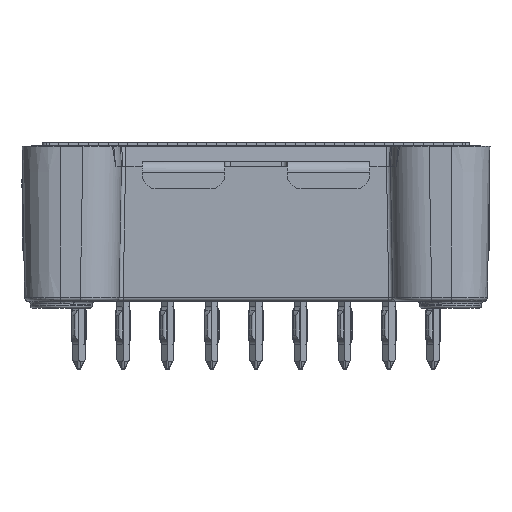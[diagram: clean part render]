
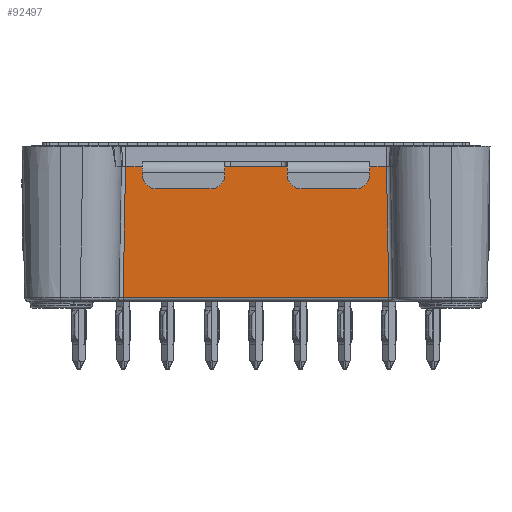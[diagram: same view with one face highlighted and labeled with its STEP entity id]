
A CAD part, left-side view. The second image highlights one B-rep face of the part: STEP entity #92497.
In plain terms, the highlighted planar face has unit normal (-1, 0, -0.018) as drawn and (0, 0.017, -1) by its records, which use the part's own axes.
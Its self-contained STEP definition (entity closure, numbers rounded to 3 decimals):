
#1170 = VECTOR ( 'NONE', #96610, 1000. ) ;
#6034 = CARTESIAN_POINT ( 'NONE',  ( 12.269, 20.602, 6.038 ) ) ;
#6550 = LINE ( 'NONE', #117843, #32901 ) ;
#10322 = VECTOR ( 'NONE', #28267, 1000. ) ;
#14903 = DIRECTION ( 'NONE',  ( -1., 0., 0. ) ) ;
#16298 = VERTEX_POINT ( 'NONE', #76093 ) ;
#19536 = VERTEX_POINT ( 'NONE', #52197 ) ;
#20407 = LINE ( 'NONE', #111037, #68376 ) ;
#25195 = DIRECTION ( 'NONE',  ( 0., 0.017, -1. ) ) ;
#25995 = DIRECTION ( 'NONE',  ( -0.017, -1., -0.017 ) ) ;
#26356 = VERTEX_POINT ( 'NONE', #105209 ) ;
#28267 = DIRECTION ( 'NONE',  ( 0., 1., 0.017 ) ) ;
#28622 = ORIENTED_EDGE ( 'NONE', *, *, #90047, .T. ) ;
#28893 = DIRECTION ( 'NONE',  ( -1., 0., 0. ) ) ;
#29606 = VECTOR ( 'NONE', #118853, 1000. ) ;
#31381 = VECTOR ( 'NONE', #25995, 1000. ) ;
#31553 = VERTEX_POINT ( 'NONE', #55242 ) ;
#32901 = VECTOR ( 'NONE', #34578, 1000. ) ;
#34578 = DIRECTION ( 'NONE',  ( -1., 0., 0. ) ) ;
#38624 = ORIENTED_EDGE ( 'NONE', *, *, #46875, .T. ) ;
#41908 = DIRECTION ( 'NONE',  ( -0.017, 1., 0.017 ) ) ;
#42035 = DIRECTION ( 'NONE',  ( 0., -1., -0.017 ) ) ;
#43796 = CARTESIAN_POINT ( 'NONE',  ( 12.269, 22.072, 6.063 ) ) ;
#45746 = EDGE_CURVE ( 'NONE', #57873, #19536, #20407, .T. ) ;
#46875 = EDGE_CURVE ( 'NONE', #59455, #57873, #80357, .T. ) ;
#47929 = EDGE_CURVE ( 'NONE', #19536, #93644, #86933, .T. ) ;
#50928 = EDGE_CURVE ( 'NONE', #26356, #71558, #74617, .T. ) ;
#52197 = CARTESIAN_POINT ( 'NONE',  ( 11.044, 22.072, 6.063 ) ) ;
#54637 = EDGE_LOOP ( 'NONE', ( #91057, #69706, #113820, #77518, #38624, #93713, #75351, #28622 ) ) ;
#55242 = CARTESIAN_POINT ( 'NONE',  ( 30.06, 31.507, 6.228 ) ) ;
#56198 = VECTOR ( 'NONE', #42035, 1000. ) ;
#57873 = VERTEX_POINT ( 'NONE', #93771 ) ;
#58375 = LINE ( 'NONE', #105704, #1170 ) ;
#58930 = CARTESIAN_POINT ( 'NONE',  ( 28.669, 22.072, 6.063 ) ) ;
#59455 = VERTEX_POINT ( 'NONE', #43796 ) ;
#62067 = EDGE_CURVE ( 'NONE', #31553, #16298, #83252, .T. ) ;
#68152 = CARTESIAN_POINT ( 'NONE',  ( 10.874, 31.807, 6.233 ) ) ;
#68376 = VECTOR ( 'NONE', #28893, 1000. ) ;
#69706 = ORIENTED_EDGE ( 'NONE', *, *, #112130, .T. ) ;
#71558 = VERTEX_POINT ( 'NONE', #58930 ) ;
#72394 = CARTESIAN_POINT ( 'NONE',  ( 29.87, 20.607, 6.038 ) ) ;
#74617 = LINE ( 'NONE', #111591, #10322 ) ;
#74847 = AXIS2_PLACEMENT_3D ( 'NONE', #98262, #25195, #14903 ) ;
#75351 = ORIENTED_EDGE ( 'NONE', *, *, #47929, .T. ) ;
#76093 = CARTESIAN_POINT ( 'NONE',  ( 29.895, 22.072, 6.063 ) ) ;
#77518 = ORIENTED_EDGE ( 'NONE', *, *, #110271, .F. ) ;
#80357 = LINE ( 'NONE', #6034, #56198 ) ;
#83252 = LINE ( 'NONE', #72394, #31381 ) ;
#86933 = LINE ( 'NONE', #68152, #104952 ) ;
#89213 = PLANE ( 'NONE',  #74847 ) ;
#90047 = EDGE_CURVE ( 'NONE', #93644, #31553, #100064, .T. ) ;
#91057 = ORIENTED_EDGE ( 'NONE', *, *, #62067, .T. ) ;
#92497 = ADVANCED_FACE ( 'NONE', ( #109697 ), #89213, .T. ) ;
#93644 = VERTEX_POINT ( 'NONE', #98722 ) ;
#93713 = ORIENTED_EDGE ( 'NONE', *, *, #45746, .T. ) ;
#93771 = CARTESIAN_POINT ( 'NONE',  ( 12.269, 22.072, 6.063 ) ) ;
#96610 = DIRECTION ( 'NONE',  ( 1., 0., 0. ) ) ;
#98262 = CARTESIAN_POINT ( 'NONE',  ( 30.169, 20.602, 6.038 ) ) ;
#98722 = CARTESIAN_POINT ( 'NONE',  ( 10.879, 31.507, 6.228 ) ) ;
#100064 = LINE ( 'NONE', #110938, #29606 ) ;
#104952 = VECTOR ( 'NONE', #41908, 1000. ) ;
#105209 = CARTESIAN_POINT ( 'NONE',  ( 28.669, 22.072, 6.063 ) ) ;
#105704 = CARTESIAN_POINT ( 'NONE',  ( 30.169, 22.072, 6.063 ) ) ;
#109697 = FACE_OUTER_BOUND ( 'NONE', #54637, .T. ) ;
#110271 = EDGE_CURVE ( 'NONE', #59455, #71558, #58375, .T. ) ;
#110938 = CARTESIAN_POINT ( 'NONE',  ( 30.169, 31.507, 6.228 ) ) ;
#111037 = CARTESIAN_POINT ( 'NONE',  ( 30.169, 22.072, 6.063 ) ) ;
#111591 = CARTESIAN_POINT ( 'NONE',  ( 28.669, 20.602, 6.038 ) ) ;
#112130 = EDGE_CURVE ( 'NONE', #16298, #26356, #6550, .T. ) ;
#113820 = ORIENTED_EDGE ( 'NONE', *, *, #50928, .T. ) ;
#117843 = CARTESIAN_POINT ( 'NONE',  ( 30.169, 22.072, 6.063 ) ) ;
#118853 = DIRECTION ( 'NONE',  ( 1., 0., 0. ) ) ;
